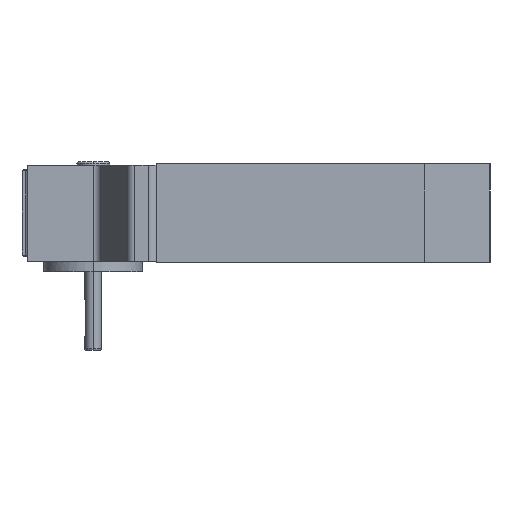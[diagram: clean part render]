
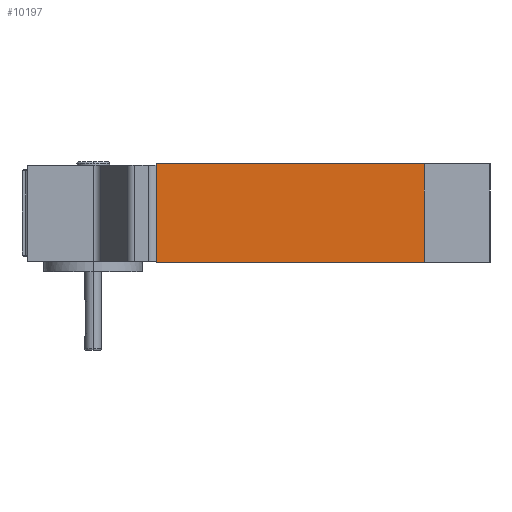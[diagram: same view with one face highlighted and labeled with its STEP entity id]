
A CAD part, left-side view. The second image highlights one B-rep face of the part: STEP entity #10197.
In plain terms, the highlighted planar face has unit normal (-1, 0, 0).
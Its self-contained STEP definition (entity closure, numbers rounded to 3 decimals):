
#1244 = FACE_OUTER_BOUND ( 'NONE', #5213, .T. ) ;
#1324 = VECTOR ( 'NONE', #15324, 1000. ) ;
#1505 = EDGE_CURVE ( 'NONE', #9167, #7198, #3623, .T. ) ;
#1610 = CARTESIAN_POINT ( 'NONE',  ( -48.14, -76.68, 1.5 ) ) ;
#1714 = CARTESIAN_POINT ( 'NONE',  ( -48.14, 0., -118.5 ) ) ;
#1887 = DIRECTION ( 'NONE',  ( 0., 0., 1. ) ) ;
#2593 = VERTEX_POINT ( 'NONE', #9452 ) ;
#2648 = EDGE_CURVE ( 'NONE', #7626, #2593, #2775, .T. ) ;
#2694 = EDGE_CURVE ( 'NONE', #7198, #2593, #3743, .T. ) ;
#2775 = LINE ( 'NONE', #13331, #7384 ) ;
#3162 = PLANE ( 'NONE',  #8042 ) ;
#3171 = VECTOR ( 'NONE', #14783, 1000. ) ;
#3623 = LINE ( 'NONE', #1714, #1324 ) ;
#3743 = LINE ( 'NONE', #12193, #3171 ) ;
#3840 = CARTESIAN_POINT ( 'NONE',  ( -48.14, -402.877, -118.5 ) ) ;
#5213 = EDGE_LOOP ( 'NONE', ( #8797, #14250, #14624, #12749 ) ) ;
#7198 = VERTEX_POINT ( 'NONE', #3840 ) ;
#7384 = VECTOR ( 'NONE', #15584, 1000. ) ;
#7626 = VERTEX_POINT ( 'NONE', #1610 ) ;
#8042 = AXIS2_PLACEMENT_3D ( 'NONE', #9310, #11734, #1887 ) ;
#8696 = DIRECTION ( 'NONE',  ( 0., 0., 1. ) ) ;
#8797 = ORIENTED_EDGE ( 'NONE', *, *, #2648, .F. ) ;
#9167 = VERTEX_POINT ( 'NONE', #12037 ) ;
#9310 = CARTESIAN_POINT ( 'NONE',  ( -48.14, 0., -118.5 ) ) ;
#9452 = CARTESIAN_POINT ( 'NONE',  ( -48.14, -402.877, 1.5 ) ) ;
#10197 = ADVANCED_FACE ( 'NONE', ( #1244 ), #3162, .T. ) ;
#11527 = VECTOR ( 'NONE', #8696, 1000. ) ;
#11734 = DIRECTION ( 'NONE',  ( -1., 0., 0. ) ) ;
#11934 = EDGE_CURVE ( 'NONE', #9167, #7626, #12674, .T. ) ;
#12037 = CARTESIAN_POINT ( 'NONE',  ( -48.14, -76.68, -118.5 ) ) ;
#12193 = CARTESIAN_POINT ( 'NONE',  ( -48.14, -402.877, -118.5 ) ) ;
#12674 = LINE ( 'NONE', #14739, #11527 ) ;
#12749 = ORIENTED_EDGE ( 'NONE', *, *, #2694, .T. ) ;
#13331 = CARTESIAN_POINT ( 'NONE',  ( -48.14, 0., 1.5 ) ) ;
#14250 = ORIENTED_EDGE ( 'NONE', *, *, #11934, .F. ) ;
#14624 = ORIENTED_EDGE ( 'NONE', *, *, #1505, .T. ) ;
#14739 = CARTESIAN_POINT ( 'NONE',  ( -48.14, -76.68, -118.5 ) ) ;
#14783 = DIRECTION ( 'NONE',  ( 0., 0., 1. ) ) ;
#15324 = DIRECTION ( 'NONE',  ( 0., -1., 0. ) ) ;
#15584 = DIRECTION ( 'NONE',  ( 0., -1., 0. ) ) ;
